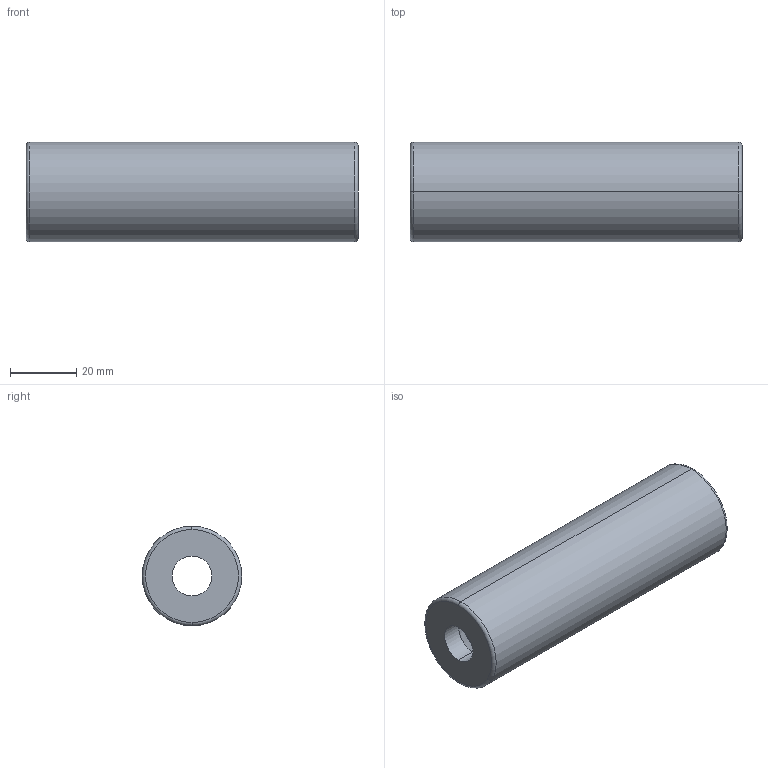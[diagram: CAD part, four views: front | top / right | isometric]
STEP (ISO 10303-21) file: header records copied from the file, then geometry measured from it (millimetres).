
FILE_DESCRIPTION (( 'STEP AP214' ), '1' );
FILE_NAME ('BR20 30x100.STEP', '2020-01-21T11:32:04', ( 'August' ), ( '' ), 'SwSTEP 2.0', 'SolidWorks 2018', '' );
FILE_SCHEMA (( 'AUTOMOTIVE_DESIGN' ));
Length unit declared in the file: millimetre
Products named in the file (1): BR20 30x100
Bounding box: 100 x 30 x 30 mm (x, y, z)
Volume: 21702.1 mm3; surface area: 18036.1 mm2
Topology: 1 solids, 1 shells, 14 faces, 28 edges, 16 vertices
Faces by surface type: cylinder 6, torus 4, cone 2, plane 2
Entity records: 406 total; most frequent: DIRECTION 78, CARTESIAN_POINT 59, ORIENTED_EDGE 56, AXIS2_PLACEMENT_3D 35, EDGE_CURVE 28, CIRCLE 20, EDGE_LOOP 16, VERTEX_POINT 16
